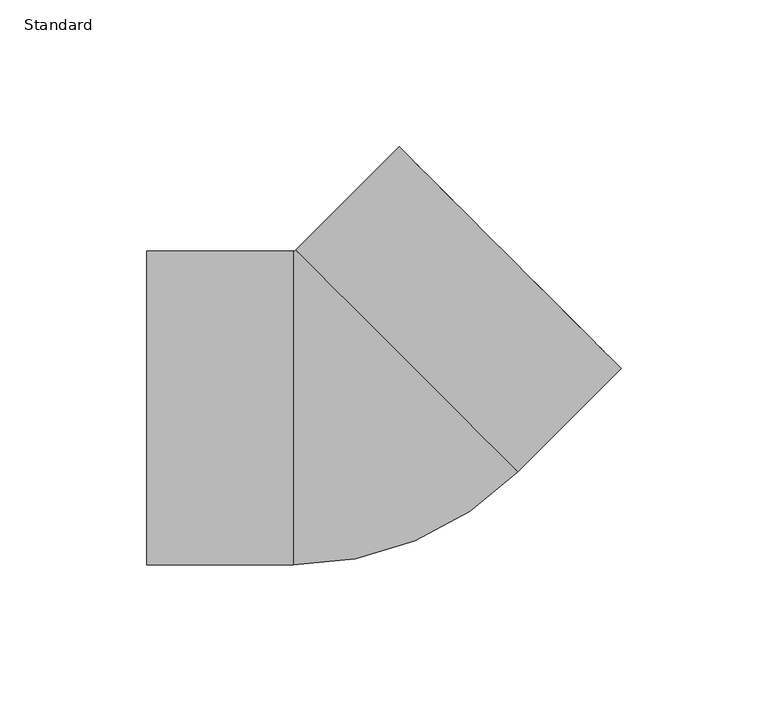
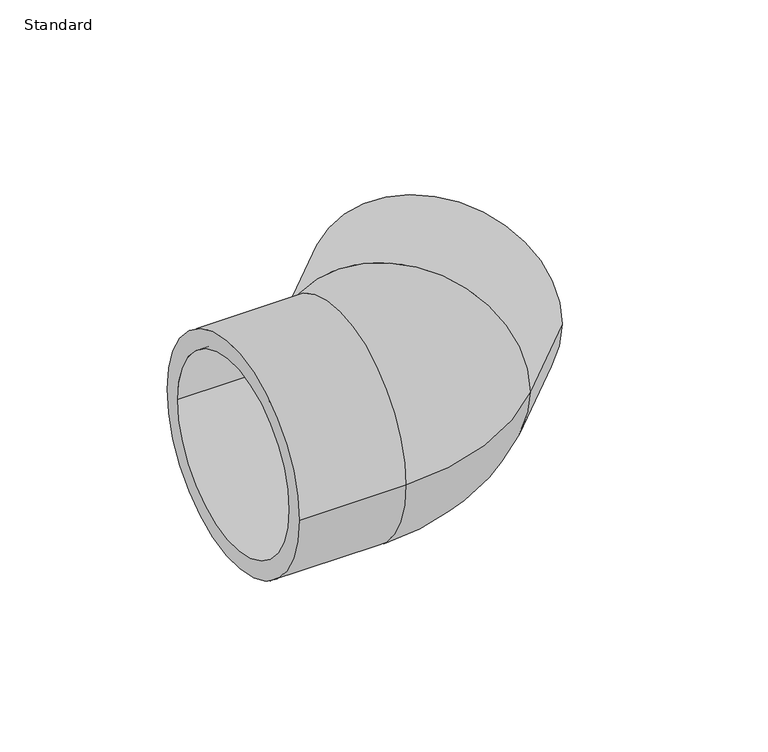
"""IFC4 building model written with IfcOpenShell, lengths in millimetres: pipe fitting geometry, Durapipe_PipeFitting_PVC_Elbow45deg : Standard."""

from ifc_helpers import new_model, si_unit, point, frame, origin, place, context, project, spatial, polyline, circle_curve, ellipse_curve, trimmed, source, transform, mapped, element, save
from ifc_brep_helpers import plane_surface, cylinder_surface, revolved_surface, advanced_brep


def standard_cd4ecaba(model_context):
    return source(origin(), model_context, "Body", "AdvancedBrep", [
        advanced_brep(
        [(-72.5, -53.5, 0.0), (-72.5, 53.5, 0.0), (-72.5, -45.0, 0.0), (-72.5, 45.0, 0.0), (-22.6604256, -53.5, 0.0), (-22.6604256, 53.5, 0.0), (53.8535534, -21.8068722, 0.0), (-21.8068722, 53.8535534, 0.0), (89.0954544, 13.4350288, 0.0), (13.4350288, 89.0954544, 0.0), (19.4454365, 83.0850468, 0.0), (83.0850468, 19.4454365, 0.0), (-21.5, 45.0, 0.0), (-21.5, -45.0, 0.0), (-21.5, 0.0, 0.0), (-16.6170094, 47.0226009, 0.0), (15.2027958, 15.2027958, 0.0), (47.0226009, -16.6170094, 0.0)],
        [
            (0, 1, circle_curve(frame((-72.5, 0.0, 0.0), z_axis=(-1.0, 0.0, 0.0), x_axis=(0.0, 1.0, 0.0)), 53.5)),
            (1, 0, circle_curve(frame((-72.5, 0.0, 0.0), z_axis=(-1.0, 0.0, 0.0), x_axis=(0.0, 1.0, 0.0)), 53.5)),
            (2, 3, circle_curve(frame((-72.5, 0.0, 0.0), z_axis=(1.0, 0.0, 0.0), x_axis=(0.0, -1.0, 0.0)), 45.0)),
            (3, 2, circle_curve(frame((-72.5, 0.0, 0.0), z_axis=(1.0, 0.0, 0.0), x_axis=(0.0, -1.0, 0.0)), 45.0)),
            (0, 4),
            (4, 5, circle_curve(frame((-22.6604256, 0.0, 0.0), z_axis=(-1.0, 0.0, 0.0), x_axis=(0.0, 1.0, 0.0)), 53.5)),
            (5, 1),
            (5, 4, circle_curve(frame((-22.6604256, 0.0, 0.0), z_axis=(-1.0, 0.0, 0.0), x_axis=(0.0, 1.0, 0.0)), 53.5)),
            (4, 6, circle_curve(frame((-22.6604256, 54.7071068, 0.0), z_axis=(0.0, 0.0, 1.0), x_axis=(0.0, -1.0, 0.0)), 108.2071068)),
            (6, 7, circle_curve(frame((16.0233406, 16.0233406, 0.0), z_axis=(-0.70710678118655, -0.707106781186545, 0.0), x_axis=(-0.707106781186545, 0.70710678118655, 0.0)), 53.5)),
            (7, 5, circle_curve(frame((-22.6604256, 54.7071068, 0.0), z_axis=(0.0, 0.0, -1.0), x_axis=(0.0, -1.0, 0.0)), 1.2071068)),
            (7, 6, circle_curve(frame((16.0233406, 16.0233406, 0.0), z_axis=(-0.7071067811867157, -0.7071067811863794, 0.0), x_axis=(-0.7071067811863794, 0.7071067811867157, 0.0)), 53.5)),
            (8, 9, circle_curve(frame((51.2652416, 51.2652416, 0.0), z_axis=(0.7071067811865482, 0.7071067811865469, 0.0), x_axis=(-0.7071067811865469, 0.7071067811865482, 0.0)), 53.5)),
            (9, 8, circle_curve(frame((51.2652416, 51.2652416, 0.0), z_axis=(0.7071067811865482, 0.7071067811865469, 0.0), x_axis=(-0.7071067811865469, 0.7071067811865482, 0.0)), 53.5)),
            (10, 11, circle_curve(frame((51.2652416, 51.2652416, 0.0), z_axis=(-0.7071067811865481, -0.7071067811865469, 0.0), x_axis=(0.7071067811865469, -0.7071067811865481, 0.0)), 45.0)),
            (11, 10, circle_curve(frame((51.2652416, 51.2652416, 0.0), z_axis=(-0.7071067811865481, -0.7071067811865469, 0.0), x_axis=(0.7071067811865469, -0.7071067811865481, 0.0)), 45.0)),
            (6, 8),
            (9, 7),
            (12, 3),
            (2, 13),
            (13, 12, circle_curve(frame((-21.5, 0.0, 0.0), z_axis=(1.0, 0.0, 0.0), x_axis=(0.0, -1.0, 0.0)), 45.0)),
            (12, 13, circle_curve(frame((-21.5, 0.0, 0.0), z_axis=(1.0, 0.0, 0.0), x_axis=(0.0, -1.0, 0.0)), 45.0)),
            (13, 14),
            (14, 12),
            (15, 16),
            (16, 17),
            (17, 15, circle_curve(frame((15.2027958, 15.2027958, 0.0), z_axis=(0.7071067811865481, 0.7071067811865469, 0.0), x_axis=(0.7071067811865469, -0.7071067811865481, 0.0)), 45.0)),
            (15, 17, circle_curve(frame((15.2027958, 15.2027958, 0.0), z_axis=(0.7071067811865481, 0.7071067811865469, 0.0), x_axis=(0.7071067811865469, -0.7071067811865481, 0.0)), 45.0)),
            (17, 11),
            (10, 15),
        ],
        [
            plane_surface(frame((-72.5, 0.0, 0.0), z_axis=(-1.0, 0.0, 0.0), x_axis=(0.0, 0.0, 1.0))),
            cylinder_surface(frame((-72.5, 0.0, 0.0), z_axis=(-1.0, 0.0, 0.0), x_axis=(0.0, 1.0, 0.0)), 53.5),
            revolved_surface(trimmed(ellipse_curve(frame((-22.6604256, 0.0, 0.0), z_axis=(-1.0, 0.0, 0.0), x_axis=(0.0, 1.0, 0.0)), 53.5, 53.5), [point((-22.6604256, -53.5, 0.0))], [point((-22.6604256, 53.5, 0.0))], True, "CARTESIAN"), (-22.6604256, 54.7071068, 0.0), (0.0, 0.0, 1.0)),
            revolved_surface(trimmed(ellipse_curve(frame((-22.6604256, 0.0, 0.0), z_axis=(-1.0, 0.0, 0.0), x_axis=(0.0, 1.0, 0.0)), 53.5, 53.5), [point((-22.6604256, 53.5, 0.0))], [point((-22.6604256, -53.5, 0.0))], True, "CARTESIAN"), (-22.6604256, 54.7071068, 0.0), (0.0, 0.0, 1.0)),
            plane_surface(frame((51.2652416, 51.2652416, 0.0), z_axis=(0.7071067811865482, 0.7071067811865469, 0.0), x_axis=(0.0, 0.0, 1.0))),
            cylinder_surface(frame((16.0233406, 16.0233406, 0.0), z_axis=(-0.7071067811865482, -0.7071067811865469, 0.0), x_axis=(-0.7071067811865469, 0.7071067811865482, 0.0)), 53.5),
            revolved_surface(polyline([(-21.5, -45.0, 0.0), (-72.5, -45.0, 0.0)]), (2000.0, 0.0, 0.0), (1.0, 0.0, 0.0)),
            plane_surface(frame((-21.5, 0.0, 0.0), z_axis=(-1.0, 0.0, 0.0), x_axis=(0.0, -1.0, 0.0))),
            plane_surface(frame((15.2027958, 15.2027958, 0.0), z_axis=(0.7071067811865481, 0.7071067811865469, 0.0), x_axis=(0.7071067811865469, -0.7071067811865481, 0.0))),
            revolved_surface(polyline([(83.08504680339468, 19.445436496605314, 0.0), (47.0226009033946, -16.617009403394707, 0.0)]), (0.0, 0.0, 0.0), (0.7071067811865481, 0.7071067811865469, 0.0)),
        ],
        [
            (0, [[1, 2], [3, 4]]),
            (1, [[-1, 5, 6, 7]]),
            (1, [[-2, -7, 8, -5]]),
            (2, [[-6, 9, 10, 11]]),
            (3, [[-8, -11, 12, -9]]),
            (4, [[13, 14], [15, 16]]),
            (5, [[-10, 17, -14, 18]]),
            (5, [[-12, -18, -13, -17]]),
            (6, [[19, -3, 20, 21]]),
            (6, [[-19, 22, -20, -4]]),
            (7, [[-21, 23, 24]]),
            (7, [[-22, -24, -23]]),
            (8, [[25, 26, 27]]),
            (8, [[-25, 28, -26]]),
            (9, [[-27, 29, -15, 30]]),
            (9, [[-28, -30, -16, -29]]),
        ],
    ),
    ])


if __name__ == "__main__":
    model = new_model("IFC4")
    model_context = context("Model", 3, world=origin())
    ifc_project = project(units=[si_unit("LENGTHUNIT", "METRE", prefix="MILLI")], contexts=[model_context])
    site = spatial("IfcSite", under=ifc_project)
    building = spatial("IfcBuilding", under=site)
    placement = place(None, origin())
    standard_shape = standard_cd4ecaba(model_context)
    element("IfcPipeFitting", 1, ObjectType="Durapipe_PipeFitting_PVC_Elbow45deg : Standard", at=placement, inside=building, context=model_context, shape_type="MappedRepresentation", body=[
        mapped(standard_shape, transform((0.0, 0.0, 0.0), x_axis=(1.0, 0.0, 0.0), y_axis=(0.0, 1.0, 0.0), z_axis=(0.0, 0.0, 1.0))),
    ])
    save(model, "model.ifc")
